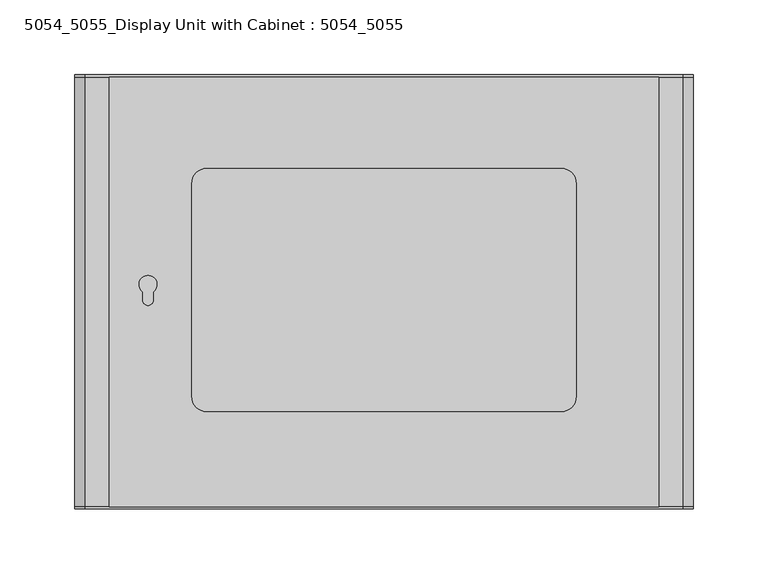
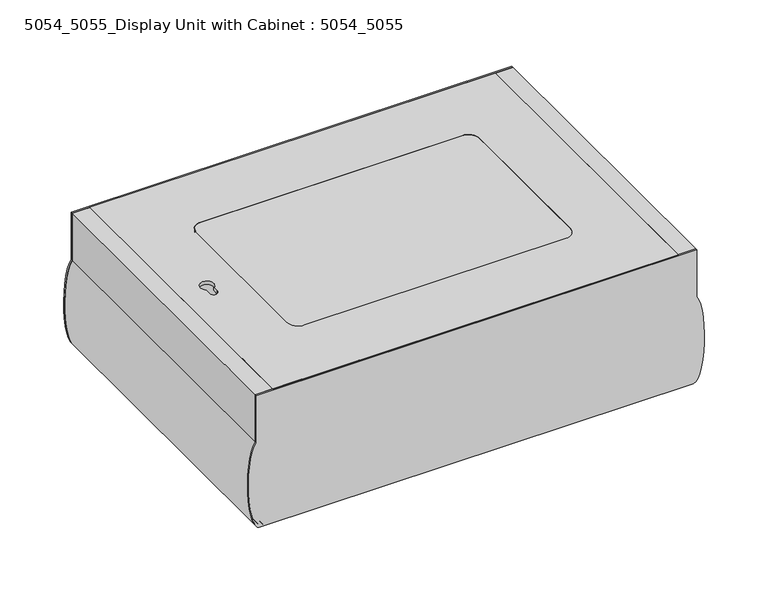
"""IFC4 building model written with IfcOpenShell, lengths in millimetres: alarm geometry, 5054_5055_Display Unit with Cabinet : 5054_5055."""

import ifcopenshell
import ifcopenshell.guid

model = None  # the IFC model being written
_history = None  # IfcOwnerHistory: only IFC2X3 demands one
_inside = {}  # id of a spatial element -> (the spatial element, [elements in it])
_under = {}  # id of a project, library or spatial element -> (it, [spatial elements below it])
_declared = {}  # id of a project -> (the project, [libraries it declares])
_typed = {}  # id of a type object -> (the type object, [elements of that type])
_made_of = {}  # id of a material, layer set ... -> (it, [elements and type objects made of it])


def new_model(schema):
    """Start an empty IFC model of exactly this schema.

    Asked for "IFC4X3", IfcOpenShell would pick the latest addendum, in which some entities
    have other attributes; the version numbers below select the first issue.
    IFC2X3 requires an IfcOwnerHistory on every rooted entity: one is made here for all.
    """
    global model, _history
    if schema == "IFC4X3":
        model = ifcopenshell.file(schema_version=(4, 3, 0, 0))
    else:
        model = ifcopenshell.file(schema=schema)
    _inside.clear()
    _under.clear()
    _declared.clear()
    _typed.clear()
    _made_of.clear()
    _history = None
    if model.schema == "IFC2X3":
        org = make("IfcOrganization", Name="unknown")
        user = make(
            "IfcPersonAndOrganization",
            ThePerson=make("IfcPerson", FamilyName="unknown"),
            TheOrganization=org,
        )
        app = make(
            "IfcApplication",
            ApplicationDeveloper=org,
            Version="unknown",
            ApplicationFullName="unknown",
            ApplicationIdentifier="unknown",
        )
        _history = make(
            "IfcOwnerHistory",
            OwningUser=user,
            OwningApplication=app,
            ChangeAction="ADDED",
            CreationDate=0,
        )
    return model


def make(cls, **values):
    """One entity of the class cls with the attributes given. An attribute that is None is left unset."""
    return model.create_entity(
        cls, **{name: value for name, value in values.items() if value is not None}
    )


def rooted(cls, **values):
    """An entity with a GlobalId (a new one), such as an element, a storey or a relation."""
    return make(cls, GlobalId=ifcopenshell.guid.new(), OwnerHistory=_history, **values)


def si_unit(unit_type, name, prefix=None):
    """IfcSIUnit, for example si_unit("LENGTHUNIT", "METRE", prefix="MILLI")."""
    return make("IfcSIUnit", UnitType=unit_type, Prefix=prefix, Name=name)


def assignment(units):
    """IfcUnitAssignment: the units of a project."""
    return None if units is None else make("IfcUnitAssignment", Units=units)


def point(xyz):
    """IfcCartesianPoint."""
    return None if xyz is None else make("IfcCartesianPoint", Coordinates=xyz)


def direction(xyz):
    """IfcDirection."""
    return None if xyz is None else make("IfcDirection", DirectionRatios=xyz)


def frame(location, z_axis=None, x_axis=None):
    """IfcAxis2Placement3D, a coordinate frame: its origin and axes. An axis left out is left unset."""
    return make(
        "IfcAxis2Placement3D",
        Location=point(location),
        Axis=direction(z_axis),
        RefDirection=direction(x_axis),
    )


def frame_2d(location, x_axis=None):
    """IfcAxis2Placement2D, a coordinate frame in the plane: its origin and x axis."""
    return make(
        "IfcAxis2Placement2D", Location=point(location), RefDirection=direction(x_axis)
    )


def origin():
    """The frame at (0, 0, 0) with its axes left unset."""
    return frame((0.0, 0.0, 0.0))


def origin_with_axes():
    """The frame at (0, 0, 0) with the z axis (0, 0, 1) and the x axis (1, 0, 0) written out."""
    return frame((0.0, 0.0, 0.0), z_axis=(0.0, 0.0, 1.0), x_axis=(1.0, 0.0, 0.0))


def place(relative_to, where):
    """IfcLocalPlacement: puts the frame where relative to a parent placement (None: the world)."""
    return make(
        "IfcLocalPlacement", PlacementRelTo=relative_to, RelativePlacement=where
    )


def context(
    kind, dimensions, precision=None, world=None, true_north=None, identifier=None
):
    """IfcGeometricRepresentationContext, for example the 3D "Model" context."""
    return make(
        "IfcGeometricRepresentationContext",
        ContextIdentifier=identifier,
        ContextType=kind,
        CoordinateSpaceDimension=dimensions,
        Precision=precision,
        WorldCoordinateSystem=world,
        TrueNorth=true_north,
    )


def project(units=None, contexts=None):
    """IfcProject with its units and contexts."""
    return rooted(
        "IfcProject",
        Name="project",
        RepresentationContexts=contexts,
        UnitsInContext=assignment(units),
    )


def spatial(cls, under=None, at=None, **own):
    """A site, building, storey or space (cls), placed at a placement, below another one or the project."""
    s = rooted(cls, ObjectPlacement=at, **own)
    if under is not None:
        _under.setdefault(under.id(), (under, []))[1].append(s)
    return s


def polyline(points):
    """IfcPolyline through the points."""
    return make("IfcPolyline", Points=[point(p) for p in points])


def circle_curve(where, radius):
    """IfcCircle in the frame where."""
    return make("IfcCircle", Position=where, Radius=radius)


def ellipse_curve(where, semi_axis1, semi_axis2):
    """IfcEllipse in the frame where."""
    return make(
        "IfcEllipse", Position=where, SemiAxis1=semi_axis1, SemiAxis2=semi_axis2
    )


def trimmed(basis, trim1, trim2, sense, master):
    """IfcTrimmedCurve: the piece of a basis curve between two trims."""
    return make(
        "IfcTrimmedCurve",
        BasisCurve=basis,
        Trim1=trim1,
        Trim2=trim2,
        SenseAgreement=sense,
        MasterRepresentation=master,
    )


def segment(curve, same_sense, transition):
    """IfcCompositeCurveSegment."""
    return make(
        "IfcCompositeCurveSegment",
        Transition=transition,
        SameSense=same_sense,
        ParentCurve=curve,
    )


def composite_curve(segments, self_intersect=None):
    """IfcCompositeCurve: segments joined end to end."""
    return make("IfcCompositeCurve", Segments=segments, SelfIntersect=self_intersect)


def outline(outer, holes=None, kind="AREA"):
    """IfcArbitraryClosedProfileDef: a profile drawn as a closed curve; with holes, ...WithVoids."""
    if holes is None:
        return make("IfcArbitraryClosedProfileDef", ProfileType=kind, OuterCurve=outer)
    return make(
        "IfcArbitraryProfileDefWithVoids",
        ProfileType=kind,
        OuterCurve=outer,
        InnerCurves=holes,
    )


def extrude(swept, where, along, depth):
    """IfcExtrudedAreaSolid: the profile swept, set in the frame where, extruded along a direction by depth."""
    return make(
        "IfcExtrudedAreaSolid",
        SweptArea=swept,
        Position=where,
        ExtrudedDirection=direction(along),
        Depth=depth,
    )


def shape(context_of_items, identifier, shape_type, items):
    """IfcShapeRepresentation: the items that make up one representation, for example the "Body"."""
    return make(
        "IfcShapeRepresentation",
        ContextOfItems=context_of_items,
        RepresentationIdentifier=identifier,
        RepresentationType=shape_type,
        Items=items,
    )


def source(mapping_origin, context_of_items, identifier, shape_type, items):
    """IfcRepresentationMap: a shape defined once, which mapped items show again and again."""
    return make(
        "IfcRepresentationMap",
        MappingOrigin=mapping_origin,
        MappedRepresentation=shape(context_of_items, identifier, shape_type, items),
    )


def transform(
    local_origin,
    x_axis=None,
    y_axis=None,
    z_axis=None,
    scale=None,
    scale2=None,
    scale3=None,
    uniform=True,
):
    """IfcCartesianTransformationOperator3D, or its non-uniform kind. x_axis, y_axis, z_axis: its Axis1, 2, 3."""
    if uniform:
        return make(
            "IfcCartesianTransformationOperator3D",
            Axis1=direction(x_axis),
            Axis2=direction(y_axis),
            LocalOrigin=point(local_origin),
            Scale=scale,
            Axis3=direction(z_axis),
        )
    return make(
        "IfcCartesianTransformationOperator3DnonUniform",
        Axis1=direction(x_axis),
        Axis2=direction(y_axis),
        LocalOrigin=point(local_origin),
        Scale=scale,
        Axis3=direction(z_axis),
        Scale2=scale2,
        Scale3=scale3,
    )


def mapped(mapping_source, mapping_target):
    """IfcMappedItem: shows the shape of a source again, moved by a transform."""
    return make(
        "IfcMappedItem", MappingSource=mapping_source, MappingTarget=mapping_target
    )


def made_of(thing, what):
    """Note that an element or type object is made of a material, layer set ...; save() writes the relation."""
    if what is not None:
        _made_of.setdefault(what.id(), (what, []))[1].append(thing)
    return thing


def element(
    cls,
    number,
    at=None,
    inside=None,
    cuts=None,
    type_object=None,
    material=None,
    context=None,
    identifier="Body",
    shape_type=None,
    held_by="IfcProductDefinitionShape",
    body=None,
    shapes=None,
    **own,
):
    """One element of the class cls, such as IfcWall. Its Tag is "e" and its number.

    at: its placement. inside: the storey or other place that contains it. cuts: it is an
    opening in that element (IfcRelVoidsElement). A single representation is given by context,
    identifier, shape_type and body (its items); several are given by shapes. held_by: the class
    of the entity that holds the representations. save() writes the other relations.
    """
    e = rooted(cls, Tag="e%d" % number, ObjectPlacement=at, **own)
    if body is not None:
        shapes = [shape(context, identifier, shape_type, body)]
    if shapes is not None:
        e.Representation = make(held_by, Representations=shapes)
    if inside is not None:
        _inside.setdefault(inside.id(), (inside, []))[1].append(e)
    if cuts is not None:
        rooted(
            "IfcRelVoidsElement", RelatingBuildingElement=cuts, RelatedOpeningElement=e
        )
    if type_object is not None:
        _typed.setdefault(type_object.id(), (type_object, []))[1].append(e)
    return made_of(e, material)


def aggregate(whole, parts):
    """IfcRelAggregates: a whole, such as a stair, and the parts it consists of."""
    return rooted("IfcRelAggregates", RelatingObject=whole, RelatedObjects=parts)


def save(model, path):
    """Write the relations noted so far, then the file.

    IfcRelAggregates (storeys below a building ...), IfcRelContainedInSpatialStructure (elements
    in a storey), IfcRelDefinesByType, IfcRelAssociatesMaterial and IfcRelDeclares: one each for
    every whole, place, type object, material and project.
    """
    for whole, parts in _under.values():
        aggregate(whole, parts)
    for where, things in _inside.values():
        rooted(
            "IfcRelContainedInSpatialStructure",
            RelatedElements=things,
            RelatingStructure=where,
        )
    for kind, things in _typed.values():
        rooted("IfcRelDefinesByType", RelatedObjects=things, RelatingType=kind)
    for what, things in _made_of.values():
        rooted("IfcRelAssociatesMaterial", RelatedObjects=things, RelatingMaterial=what)
    for by, libraries in _declared.values():
        rooted("IfcRelDeclares", RelatingContext=by, RelatedDefinitions=libraries)
    model.write(path)


def plane_surface(at):
    """IfcPlane: the flat surface through the origin of the frame at, square to its z axis."""
    return make("IfcPlane", Position=at)


def extruded_surface(curve, direction_of_extrusion, depth):
    """IfcSurfaceOfLinearExtrusion: the curve pushed along a direction by depth."""
    return make(
        "IfcSurfaceOfLinearExtrusion",
        SweptCurve=make("IfcArbitraryOpenProfileDef", ProfileType="CURVE", Curve=curve),
        ExtrudedDirection=direction(direction_of_extrusion),
        Depth=depth,
    )


def advanced_brep(points, edges, surfaces, faces):
    """IfcAdvancedBrep: a solid bounded by faces that lie on surfaces and meet in shared edges.

    An edge is (start, end): straight between two places in points (the first is 0);
    or (start, end, curve); or (start, end, curve, False) where it runs against its curve.
    A face is (place in surfaces, loops), or (place, loops, False) where it looks against
    its surface's normal. A loop lists edges by number (the first is 1), with a minus sign
    where the edge is run from its end to its start. The first loop is the outer one.
    """
    corners = [point(p) for p in points]
    vertices = [make("IfcVertexPoint", VertexGeometry=c) for c in corners]
    made = []
    for start, end, *more in edges:
        made.append(
            make(
                "IfcEdgeCurve",
                EdgeStart=vertices[start],
                EdgeEnd=vertices[end],
                EdgeGeometry=more[0] if more else make("IfcPolyline", Points=[corners[start], corners[end]]),
                SameSense=more[1] if len(more) > 1 else True,
            )
        )
    hull = []
    for where, loops, *sense in faces:
        bounds = []
        for j, loop in enumerate(loops):
            ring = [make("IfcOrientedEdge", EdgeElement=made[abs(k) - 1], Orientation=k > 0) for k in loop]
            bounds.append(
                make(
                    "IfcFaceOuterBound" if j == 0 else "IfcFaceBound",
                    Bound=make("IfcEdgeLoop", EdgeList=ring),
                    Orientation=True,
                )
            )
        hull.append(make("IfcAdvancedFace", Bounds=bounds, FaceSurface=surfaces[where], SameSense=sense[0] if sense else True))
    return make("IfcAdvancedBrep", Outer=make("IfcClosedShell", CfsFaces=hull))


def alarm_5054_5055_display_unit_with_cabinet_5054_5055_d95cda29(model_context):
    return source(origin(), model_context, "Body", "SolidModel", [
        extrude(outline(polyline([(183.5, 143.5), (183.5, -143.5), (-183.5, -143.5), (-183.5, 143.5), (183.5, 143.5)]), holes=[composite_curve([segment(trimmed(circle_curve(frame_2d((-118.3178914, -70.0)), 10.0), [point((-128.3178914, -70.0))], [point((-118.3178914, -80.0))], True, "CARTESIAN"), True, "CONTINUOUS"), segment(polyline([(-118.3178914, -80.0), (118.3178914, -80.0)]), True, "CONTINUOUS"), segment(trimmed(circle_curve(frame_2d((118.3178914, -70.0)), 10.0), [point((118.3178914, -80.0))], [point((128.3178914, -70.0))], True, "CARTESIAN"), True, "CONTINUOUS"), segment(polyline([(128.3178914, -70.0), (128.3178914, 72.5)]), True, "CONTINUOUS"), segment(trimmed(circle_curve(frame_2d((118.3178914, 72.5)), 10.0), [point((128.3178914, 72.5))], [point((118.3178914, 82.5))], True, "CARTESIAN"), True, "CONTINUOUS"), segment(polyline([(118.3178914, 82.5), (-118.3178914, 82.5)]), True, "CONTINUOUS"), segment(trimmed(circle_curve(frame_2d((-118.3178914, 72.5)), 10.0), [point((-118.3178914, 82.5))], [point((-128.3178914, 72.5))], True, "CARTESIAN"), True, "CONTINUOUS"), segment(polyline([(-128.3178914, 72.5), (-128.3178914, -70.0)]), True, "CONTINUOUS")], self_intersect=False), composite_curve([segment(trimmed(circle_curve(frame_2d((-157.5557835, -5.5751491)), 3.4628804), [point((-161.0186639, -5.5751491))], [point((-154.0929031, -5.5751491))], True, "CARTESIAN"), True, "CONTINUOUS"), segment(polyline([(-154.0929031, -5.5751491), (-154.0929031, 0.0)]), True, "CONTINUOUS"), segment(trimmed(circle_curve(frame_2d((-157.5557835, 4.8998428)), 6.0), [point((-154.0929031, 0.0))], [point((-161.0186639, 0.0))], True, "CARTESIAN"), True, "CONTINUOUS"), segment(polyline([(-161.0186639, 0.0), (-161.0186639, -5.5751491)]), True, "CONTINUOUS")], self_intersect=False)]), frame((0.0, 0.0, 124.0), z_axis=(0.0, 0.0, 1.0), x_axis=(1.0, 0.0, 0.0)), (0.0, 0.0, 1.0), 3.0),
        extrude(outline(composite_curve([segment(trimmed(circle_curve(frame_2d((-118.3178914, 72.5)), 10.0), [point((-128.3178914, 72.5))], [point((-118.3178914, 82.5))], False, "CARTESIAN"), True, "CONTINUOUS"), segment(polyline([(-118.3178914, 82.5), (118.3178914, 82.5)]), True, "CONTINUOUS"), segment(trimmed(circle_curve(frame_2d((118.3178914, 72.5)), 10.0), [point((118.3178914, 82.5))], [point((128.3178914, 72.5))], False, "CARTESIAN"), True, "CONTINUOUS"), segment(polyline([(128.3178914, 72.5), (128.3178914, -70.0)]), True, "CONTINUOUS"), segment(trimmed(circle_curve(frame_2d((118.3178914, -70.0)), 10.0), [point((128.3178914, -70.0))], [point((118.3178914, -80.0))], False, "CARTESIAN"), True, "CONTINUOUS"), segment(polyline([(118.3178914, -80.0), (-118.3178914, -80.0)]), True, "CONTINUOUS"), segment(trimmed(circle_curve(frame_2d((-118.3178914, -70.0)), 10.0), [point((-118.3178914, -80.0))], [point((-128.3178914, -70.0))], False, "CARTESIAN"), True, "CONTINUOUS"), segment(polyline([(-128.3178914, -70.0), (-128.3178914, 72.5)]), True, "CONTINUOUS")], self_intersect=False)), frame((0.0, 0.0, 124.0), z_axis=(0.0, 0.0, 1.0), x_axis=(1.0, 0.0, 0.0)), (0.0, 0.0, 1.0), 3.0),
        advanced_brep(
        [(-199.5, 143.5, 127.0), (-199.5, 143.5, 82.0617947), (-196.5741049, 143.5, 0.0), (196.5741049, 143.5, 0.0), (199.5, 143.5, 82.0617947), (199.5, 143.5, 127.0), (-199.5, 145.0, 127.0), (199.5, 145.0, 127.0), (199.5, 145.0, 82.0617947), (196.5741049, 145.0, 0.0), (-196.5741049, 145.0, 0.0), (-199.5, 145.0, 82.0617947)],
        [
            (0, 1),
            (1, 2, ellipse_curve(frame((-196.5741049, 143.5, 41.9929453), z_axis=(0.0, -1.0, 0.0), x_axis=(0.0, 0.0, 1.0)), 41.9929453, 9.7780266)),
            (2, 3),
            (3, 4, ellipse_curve(frame((196.5741049, 143.5, 41.9929453), z_axis=(0.0, -1.0, 0.0), x_axis=(0.0, 0.0, 1.0)), 41.9929453, 9.7780266)),
            (4, 5),
            (5, 0),
            (6, 7),
            (7, 8),
            (8, 9, ellipse_curve(frame((196.5741049, 145.0, 41.9929453), z_axis=(0.0, 1.0, 0.0), x_axis=(0.0, 0.0, 1.0)), 41.9929453, 9.7780266)),
            (9, 10),
            (10, 11, ellipse_curve(frame((-196.5741049, 145.0, 41.9929453), z_axis=(0.0, 1.0, 0.0), x_axis=(0.0, 0.0, 1.0)), 41.9929453, 9.7780266)),
            (11, 6),
            (11, 1),
            (0, 6),
            (9, 3),
            (2, 10),
            (8, 4),
            (7, 5),
        ],
        [
            plane_surface(frame((-199.5, 143.5, 127.0), z_axis=(0.0, -1.0, 0.0), x_axis=(-1.0, 0.0, 0.0))),
            plane_surface(frame((-199.5, 145.0, 127.0), z_axis=(0.0, 1.0, 0.0), x_axis=(1.0, 0.0, 0.0))),
            plane_surface(frame((-199.5, 145.0, 82.0617947), z_axis=(-1.0, 0.0, 0.0), x_axis=(0.0, -1.0, 0.0))),
            plane_surface(frame((196.5741049, 145.0, 0.0), z_axis=(0.0, 0.0, -1.0), x_axis=(0.0, -1.0, 0.0))),
            extruded_surface(trimmed(ellipse_curve(frame((196.5741049, 142.0, 41.9929453), z_axis=(0.0, 1.0, 0.0), x_axis=(0.0, 0.0, 1.0)), 41.9929453, 9.7780266), [point((199.5, 142.0, 82.0617947))], [point((196.5741049, 142.0, 0.0))], True, "CARTESIAN"), (0.0, 1.5, 0.0), 1.5),
            plane_surface(frame((199.5, 145.0, 127.0), z_axis=(1.0, 0.0, 0.0), x_axis=(0.0, -1.0, 0.0))),
            plane_surface(frame((-199.5, 145.0, 127.0), z_axis=(0.0, 0.0, 1.0), x_axis=(0.0, -1.0, 0.0))),
            extruded_surface(trimmed(ellipse_curve(frame((-196.5741049, 142.0, 41.9929453), z_axis=(0.0, 1.0, 0.0), x_axis=(0.0, 0.0, 1.0)), 41.9929453, 9.7780266), [point((-196.5741049, 142.0, 0.0))], [point((-199.5, 142.0, 82.0617947))], True, "CARTESIAN"), (0.0, 1.5, 0.0), 1.5),
        ],
        [
            (0, [[1, 2, 3, 4, 5, 6]]),
            (1, [[7, 8, 9, 10, 11, 12]]),
            (2, [[-12, 13, -1, 14]]),
            (3, [[-10, 15, -3, 16]]),
            (4, [[-9, 17, -4, -15]]),
            (5, [[-8, 18, -5, -17]]),
            (6, [[-7, -14, -6, -18]]),
            (7, [[-11, -16, -2, -13]]),
        ],
    ),
        advanced_brep(
        [(-199.5, -143.5, 127.0), (199.5, -143.5, 127.0), (199.5, -143.5, 82.0617947), (196.5741049, -143.5, 0.0), (-196.5741049, -143.5, 0.0), (-199.5, -143.5, 82.0617947), (-199.5, -145.0, 127.0), (-199.5, -145.0, 82.0617947), (-196.5741049, -145.0, 0.0), (196.5741049, -145.0, 0.0), (199.5, -145.0, 82.0617947), (199.5, -145.0, 127.0)],
        [
            (0, 1),
            (1, 2),
            (2, 3, ellipse_curve(frame((196.5741049, -143.5, 41.9929453), z_axis=(0.0, 1.0, 0.0), x_axis=(0.0, 0.0, 1.0)), 41.9929453, 9.7780266)),
            (3, 4),
            (4, 5, ellipse_curve(frame((-196.5741049, -143.5, 41.9929453), z_axis=(0.0, 1.0, 0.0), x_axis=(0.0, 0.0, 1.0)), 41.9929453, 9.7780266)),
            (5, 0),
            (6, 7),
            (7, 8, ellipse_curve(frame((-196.5741049, -145.0, 41.9929453), z_axis=(0.0, -1.0, 0.0), x_axis=(0.0, 0.0, 1.0)), 41.9929453, 9.7780266)),
            (8, 9),
            (9, 10, ellipse_curve(frame((196.5741049, -145.0, 41.9929453), z_axis=(0.0, -1.0, 0.0), x_axis=(0.0, 0.0, 1.0)), 41.9929453, 9.7780266)),
            (10, 11),
            (11, 6),
            (6, 0),
            (5, 7),
            (8, 4),
            (3, 9),
            (2, 10),
            (1, 11),
        ],
        [
            plane_surface(frame((-199.5, -143.5, 82.0617947), z_axis=(0.0, 1.0, 0.0), x_axis=(0.0, 0.0, 1.0))),
            plane_surface(frame((-199.5, -145.0, 82.0617947), z_axis=(0.0, -1.0, 0.0), x_axis=(0.0, 0.0, -1.0))),
            plane_surface(frame((-199.5, -145.0, 127.0), z_axis=(-1.0, 0.0, 0.0), x_axis=(0.0, 1.0, 0.0))),
            plane_surface(frame((-196.5741049, -145.0, 0.0), z_axis=(0.0, 0.0, -1.0), x_axis=(0.0, 1.0, 0.0))),
            extruded_surface(trimmed(ellipse_curve(frame((196.5741049, -142.0, 41.9929453), z_axis=(0.0, -1.0, 0.0), x_axis=(0.0, 0.0, 1.0)), 41.9929453, 9.7780266), [point((196.5741049, -142.0, 0.0))], [point((199.5, -142.0, 82.0617947))], True, "CARTESIAN"), (0.0, -1.5, 0.0), 1.5),
            plane_surface(frame((199.5, -145.0, 82.0617947), z_axis=(1.0, 0.0, 0.0), x_axis=(0.0, 1.0, 0.0))),
            plane_surface(frame((199.5, -145.0, 127.0), z_axis=(0.0, 0.0, 1.0), x_axis=(0.0, 1.0, 0.0))),
            extruded_surface(trimmed(ellipse_curve(frame((-196.5741049, -142.0, 41.9929453), z_axis=(0.0, -1.0, 0.0), x_axis=(0.0, 0.0, 1.0)), 41.9929453, 9.7780266), [point((-199.5, -142.0, 82.0617947))], [point((-196.5741049, -142.0, 0.0))], True, "CARTESIAN"), (0.0, -1.5, 0.0), 1.5),
        ],
        [
            (0, [[1, 2, 3, 4, 5, 6]]),
            (1, [[7, 8, 9, 10, 11, 12]]),
            (2, [[-7, 13, -6, 14]]),
            (3, [[-9, 15, -4, 16]]),
            (4, [[-10, -16, -3, 17]]),
            (5, [[-11, -17, -2, 18]]),
            (6, [[-12, -18, -1, -13]]),
            (7, [[-8, -14, -5, -15]]),
        ],
    ),
        advanced_brep(
        [(196.5, -143.5, 82.0617947), (193.5741049, -143.5, 0.0), (196.5741049, -143.5, 0.0), (199.5, -143.5, 82.0617947), (199.5, -143.5, 127.0), (183.5, -143.5, 127.0), (183.5, -143.5, 124.0), (196.5, -143.5, 124.0), (196.5, 143.5, 82.0617947), (196.5, 143.5, 124.0), (183.5, 143.5, 124.0), (183.5, 143.5, 127.0), (199.5, 143.5, 127.0), (199.5, 143.5, 82.0617947), (196.5741049, 143.5, 0.0), (193.5741049, 143.5, 0.0)],
        [
            (0, 1, ellipse_curve(frame((193.5741049, -143.5, 41.9929453), z_axis=(0.0, 1.0, 0.0), x_axis=(0.0, 0.0, 1.0)), 41.9929453, 9.7780266)),
            (1, 2),
            (2, 3, ellipse_curve(frame((196.5741049, -143.5, 41.9929453), z_axis=(0.0, -1.0, 0.0), x_axis=(0.0, 0.0, 1.0)), 41.9929453, 9.7780266)),
            (3, 4),
            (4, 5),
            (5, 6),
            (6, 7),
            (7, 0),
            (8, 9),
            (9, 10),
            (10, 11),
            (11, 12),
            (12, 13),
            (13, 14, ellipse_curve(frame((196.5741049, 143.5, 41.9929453), z_axis=(0.0, 1.0, 0.0), x_axis=(0.0, 0.0, 1.0)), 41.9929453, 9.7780266)),
            (14, 15),
            (15, 8, ellipse_curve(frame((193.5741049, 143.5, 41.9929453), z_axis=(0.0, -1.0, 0.0), x_axis=(0.0, 0.0, 1.0)), 41.9929453, 9.7780266)),
            (7, 9),
            (8, 0),
            (6, 10),
            (5, 11),
            (4, 12),
            (3, 13),
            (2, 14),
            (1, 15),
        ],
        [
            plane_surface(frame((193.5741049, -143.5, 83.9858906), z_axis=(0.0, -1.0, 0.0), x_axis=(1.0, 0.0, 0.0))),
            plane_surface(frame((193.5741049, 143.5, 83.9858906), z_axis=(0.0, 1.0, 0.0), x_axis=(-1.0, 0.0, 0.0))),
            plane_surface(frame((196.5, -143.5, 124.0), z_axis=(-1.0, 0.0, 0.0), x_axis=(0.0, 1.0, 0.0))),
            plane_surface(frame((183.5, -143.5, 124.0), z_axis=(0.0, 0.0, -1.0), x_axis=(0.0, 1.0, 0.0))),
            plane_surface(frame((183.5, -143.5, 127.0), z_axis=(-1.0, 0.0, 0.0), x_axis=(0.0, 1.0, 0.0))),
            plane_surface(frame((199.5, -143.5, 127.0), z_axis=(0.0, 0.0, 1.0), x_axis=(0.0, 1.0, 0.0))),
            plane_surface(frame((199.5, -143.5, 82.0617947), z_axis=(1.0, 0.0, 0.0), x_axis=(0.0, 1.0, 0.0))),
            extruded_surface(trimmed(ellipse_curve(frame((196.5741049, 430.5, 41.9929453), z_axis=(0.0, -1.0, 0.0), x_axis=(0.0, 0.0, 1.0)), 41.9929453, 9.7780266), [point((196.5741049, 430.5, 0.0))], [point((199.5, 430.5, 82.0617947))], True, "CARTESIAN"), (0.0, -287.0, 0.0), 287.0),
            plane_surface(frame((193.5741049, -143.5, 0.0), z_axis=(0.0, 0.0, -1.0), x_axis=(0.0, 1.0, 0.0))),
            extruded_surface(trimmed(ellipse_curve(frame((193.5741049, 430.5, 41.9929453), z_axis=(0.0, 1.0, 0.0), x_axis=(0.0, 0.0, 1.0)), 41.9929453, 9.7780266), [point((196.5, 430.5, 82.0617947))], [point((193.5741049, 430.5, 0.0))], True, "CARTESIAN"), (0.0, -287.0, 0.0), 287.0),
        ],
        [
            (0, [[1, 2, 3, 4, 5, 6, 7, 8]]),
            (1, [[9, 10, 11, 12, 13, 14, 15, 16]]),
            (2, [[-8, 17, -9, 18]]),
            (3, [[-7, 19, -10, -17]]),
            (4, [[-6, 20, -11, -19]]),
            (5, [[-5, 21, -12, -20]]),
            (6, [[-4, 22, -13, -21]]),
            (7, [[-3, 23, -14, -22]]),
            (8, [[-2, 24, -15, -23]]),
            (9, [[-1, -18, -16, -24]]),
        ],
    ),
        advanced_brep(
        [(-196.5, -143.5, 82.0617947), (-196.5, -143.5, 124.0), (-183.5, -143.5, 124.0), (-183.5, -143.5, 127.0), (-199.5, -143.5, 127.0), (-199.5, -143.5, 82.0617947), (-196.5741049, -143.5, 0.0), (-193.5741049, -143.5, 0.0), (-196.5, 143.5, 82.0617947), (-193.5741049, 143.5, 0.0), (-196.5741049, 143.5, 0.0), (-199.5, 143.5, 82.0617947), (-199.5, 143.5, 127.0), (-183.5, 143.5, 127.0), (-183.5, 143.5, 124.0), (-196.5, 143.5, 124.0)],
        [
            (0, 1),
            (1, 2),
            (2, 3),
            (3, 4),
            (4, 5),
            (5, 6, ellipse_curve(frame((-196.5741049, -143.5, 41.9929453), z_axis=(0.0, -1.0, 0.0), x_axis=(0.0, 0.0, 1.0)), 41.9929453, 9.7780266)),
            (6, 7),
            (7, 0, ellipse_curve(frame((-193.5741049, -143.5, 41.9929453), z_axis=(0.0, 1.0, 0.0), x_axis=(0.0, 0.0, 1.0)), 41.9929453, 9.7780266)),
            (8, 9, ellipse_curve(frame((-193.5741049, 143.5, 41.9929453), z_axis=(0.0, -1.0, 0.0), x_axis=(0.0, 0.0, 1.0)), 41.9929453, 9.7780266)),
            (9, 10),
            (10, 11, ellipse_curve(frame((-196.5741049, 143.5, 41.9929453), z_axis=(0.0, 1.0, 0.0), x_axis=(0.0, 0.0, 1.0)), 41.9929453, 9.7780266)),
            (11, 12),
            (12, 13),
            (13, 14),
            (14, 15),
            (15, 8),
            (0, 8),
            (15, 1),
            (14, 2),
            (13, 3),
            (12, 4),
            (11, 5),
            (10, 6),
            (9, 7),
        ],
        [
            plane_surface(frame((-196.5, -143.5, 124.0), z_axis=(0.0, -1.0, 0.0), x_axis=(0.0, 0.0, 1.0))),
            plane_surface(frame((-196.5, 143.5, 124.0), z_axis=(0.0, 1.0, 0.0), x_axis=(0.0, 0.0, -1.0))),
            plane_surface(frame((-196.5, -143.5, 82.0617947), z_axis=(1.0, 0.0, 0.0), x_axis=(0.0, 1.0, 0.0))),
            plane_surface(frame((-196.5, -143.5, 124.0), z_axis=(0.0, 0.0, -1.0), x_axis=(0.0, 1.0, 0.0))),
            plane_surface(frame((-183.5, -143.5, 124.0), z_axis=(1.0, 0.0, 0.0), x_axis=(0.0, 1.0, 0.0))),
            plane_surface(frame((-183.5, -143.5, 127.0), z_axis=(0.0, 0.0, 1.0), x_axis=(0.0, 1.0, 0.0))),
            plane_surface(frame((-199.5, -143.5, 127.0), z_axis=(-1.0, 0.0, 0.0), x_axis=(0.0, 1.0, 0.0))),
            extruded_surface(trimmed(ellipse_curve(frame((-196.5741049, 430.5, 41.9929453), z_axis=(0.0, -1.0, 0.0), x_axis=(0.0, 0.0, 1.0)), 41.9929453, 9.7780266), [point((-199.5, 430.5, 82.0617947))], [point((-196.5741049, 430.5, 0.0))], True, "CARTESIAN"), (0.0, -287.0, 0.0), 287.0),
            plane_surface(frame((-196.5741049, -143.5, 0.0), z_axis=(0.0, 0.0, -1.0), x_axis=(0.0, 1.0, 0.0))),
            extruded_surface(trimmed(ellipse_curve(frame((-193.5741049, 430.5, 41.9929453), z_axis=(0.0, 1.0, 0.0), x_axis=(0.0, 0.0, 1.0)), 41.9929453, 9.7780266), [point((-193.5741049, 430.5, 0.0))], [point((-196.5, 430.5, 82.0617947))], True, "CARTESIAN"), (0.0, -287.0, 0.0), 287.0),
        ],
        [
            (0, [[1, 2, 3, 4, 5, 6, 7, 8]]),
            (1, [[9, 10, 11, 12, 13, 14, 15, 16]]),
            (2, [[-1, 17, -16, 18]]),
            (3, [[-2, -18, -15, 19]]),
            (4, [[-3, -19, -14, 20]]),
            (5, [[-4, -20, -13, 21]]),
            (6, [[-5, -21, -12, 22]]),
            (7, [[-6, -22, -11, 23]]),
            (8, [[-7, -23, -10, 24]]),
            (9, [[-8, -24, -9, -17]]),
        ],
    ),
        extrude(outline(polyline([(193.5, 143.5), (193.5, -143.5), (-193.5, -143.5), (-193.5, 143.5), (193.5, 143.5)])), origin_with_axes(), (0.0, 0.0, 1.0), 3.0),
        advanced_brep(
        [(-196.5, -143.5, 82.0643791), (-193.5, -143.5, 0.0), (-190.5, -143.5, 0.0), (-193.5, -143.5, 82.0643791), (-193.5, -143.5, 122.0), (-196.5, -143.5, 122.0), (-196.5, 143.5, 82.0643791), (-196.5, 143.5, 122.0), (-193.5, 143.5, 122.0), (-193.5, 143.5, 82.0643791), (-190.5, 143.5, 0.0), (-193.5, 143.5, 0.0)],
        [
            (0, 1, ellipse_curve(frame((-193.5, -143.5, 41.9994538), z_axis=(0.0, -1.0, 0.0), x_axis=(0.0, 0.0, 1.0)), 41.9994538, 10.0)),
            (1, 2),
            (2, 3, ellipse_curve(frame((-190.5, -143.5, 41.9994538), z_axis=(0.0, 1.0, 0.0), x_axis=(0.0, 0.0, 1.0)), 41.9994538, 10.0)),
            (3, 4),
            (4, 5),
            (5, 0),
            (6, 7),
            (7, 8),
            (8, 9),
            (9, 10, ellipse_curve(frame((-190.5, 143.5, 41.9994538), z_axis=(0.0, -1.0, 0.0), x_axis=(0.0, 0.0, 1.0)), 41.9994538, 10.0)),
            (10, 11),
            (11, 6, ellipse_curve(frame((-193.5, 143.5, 41.9994538), z_axis=(0.0, 1.0, 0.0), x_axis=(0.0, 0.0, 1.0)), 41.9994538, 10.0)),
            (3, 9),
            (8, 4),
            (7, 5),
            (6, 0),
            (11, 1),
            (10, 2),
        ],
        [
            plane_surface(frame((-206.5, -143.5, 0.0), z_axis=(0.0, -1.0, 0.0), x_axis=(0.0, 0.0, 1.0))),
            plane_surface(frame((-206.5, 143.5, 0.0), z_axis=(0.0, 1.0, 0.0), x_axis=(0.0, 0.0, 1.0))),
            plane_surface(frame((-193.5, -143.5, 82.0643791), z_axis=(1.0, 0.0, 0.0), x_axis=(0.0, 1.0, 0.0))),
            plane_surface(frame((-193.5, -143.5, 122.0), z_axis=(0.0, 0.0, 1.0), x_axis=(0.0, 1.0, 0.0))),
            plane_surface(frame((-196.5, -143.5, 122.0), z_axis=(-1.0, 0.0, 0.0), x_axis=(0.0, 1.0, 0.0))),
            extruded_surface(trimmed(ellipse_curve(frame((-193.5, 143.5, 41.9994538), z_axis=(0.0, -1.0, 0.0), x_axis=(0.0, 0.0, 1.0)), 41.9994538, 10.0), [point((-196.5, 143.5, 82.0643791))], [point((-193.5, 143.5, 0.0))], True, "CARTESIAN"), (0.0, -287.0, 0.0), 287.0),
            plane_surface(frame((-193.5, -143.5, 0.0), z_axis=(0.0, 0.0, -1.0), x_axis=(0.0, 1.0, 0.0))),
            extruded_surface(trimmed(ellipse_curve(frame((-190.5, 143.5, 41.9994538), z_axis=(0.0, 1.0, 0.0), x_axis=(0.0, 0.0, 1.0)), 41.9994538, 10.0), [point((-190.5, 143.5, 0.0))], [point((-193.5, 143.5, 82.0643791))], True, "CARTESIAN"), (0.0, -287.0, 0.0), 287.0),
        ],
        [
            (0, [[1, 2, 3, 4, 5, 6]]),
            (1, [[7, 8, 9, 10, 11, 12]]),
            (2, [[-4, 13, -9, 14]]),
            (3, [[-5, -14, -8, 15]]),
            (4, [[-6, -15, -7, 16]]),
            (5, [[-1, -16, -12, 17]]),
            (6, [[-2, -17, -11, 18]]),
            (7, [[-3, -18, -10, -13]]),
        ],
    ),
        advanced_brep(
        [(196.5, -143.5, 82.0643791), (196.5, -143.5, 122.0), (193.5, -143.5, 122.0), (193.5, -143.5, 82.0643791), (190.5, -143.5, 0.0), (193.5, -143.5, 0.0), (196.5, 143.5, 82.0643791), (193.5, 143.5, 0.0), (190.5, 143.5, 0.0), (193.5, 143.5, 82.0643791), (193.5, 143.5, 122.0), (196.5, 143.5, 122.0)],
        [
            (0, 1),
            (1, 2),
            (2, 3),
            (3, 4, ellipse_curve(frame((190.5, -143.5, 41.9994538), z_axis=(0.0, 1.0, 0.0), x_axis=(0.0, 0.0, 1.0)), 41.9994538, 10.0)),
            (4, 5),
            (5, 0, ellipse_curve(frame((193.5, -143.5, 41.9994538), z_axis=(0.0, -1.0, 0.0), x_axis=(0.0, 0.0, 1.0)), 41.9994538, 10.0)),
            (6, 7, ellipse_curve(frame((193.5, 143.5, 41.9994538), z_axis=(0.0, 1.0, 0.0), x_axis=(0.0, 0.0, 1.0)), 41.9994538, 10.0)),
            (7, 8),
            (8, 9, ellipse_curve(frame((190.5, 143.5, 41.9994538), z_axis=(0.0, -1.0, 0.0), x_axis=(0.0, 0.0, 1.0)), 41.9994538, 10.0)),
            (9, 10),
            (10, 11),
            (11, 6),
            (0, 6),
            (11, 1),
            (10, 2),
            (9, 3),
            (8, 4),
            (7, 5),
        ],
        [
            plane_surface(frame((206.5, -143.5, 0.0), z_axis=(0.0, -1.0, 0.0), x_axis=(0.0, 0.0, 1.0))),
            plane_surface(frame((206.5, 143.5, 0.0), z_axis=(0.0, 1.0, 0.0), x_axis=(0.0, 0.0, 1.0))),
            plane_surface(frame((196.5, -143.5, 82.0643791), z_axis=(1.0, 0.0, 0.0), x_axis=(0.0, 1.0, 0.0))),
            plane_surface(frame((196.5, -143.5, 122.0), z_axis=(0.0, 0.0, 1.0), x_axis=(0.0, 1.0, 0.0))),
            plane_surface(frame((193.5, -143.5, 122.0), z_axis=(-1.0, 0.0, 0.0), x_axis=(0.0, 1.0, 0.0))),
            extruded_surface(trimmed(ellipse_curve(frame((190.5, 143.5, 41.9994538), z_axis=(0.0, 1.0, 0.0), x_axis=(0.0, 0.0, 1.0)), 41.9994538, 10.0), [point((193.5, 143.5, 82.0643791))], [point((190.5, 143.5, 0.0))], True, "CARTESIAN"), (0.0, -287.0, 0.0), 287.0),
            plane_surface(frame((190.5, -143.5, 0.0), z_axis=(0.0, 0.0, -1.0), x_axis=(0.0, 1.0, 0.0))),
            extruded_surface(trimmed(ellipse_curve(frame((193.5, 143.5, 41.9994538), z_axis=(0.0, -1.0, 0.0), x_axis=(0.0, 0.0, 1.0)), 41.9994538, 10.0), [point((193.5, 143.5, 0.0))], [point((196.5, 143.5, 82.0643791))], True, "CARTESIAN"), (0.0, -287.0, 0.0), 287.0),
        ],
        [
            (0, [[1, 2, 3, 4, 5, 6]]),
            (1, [[7, 8, 9, 10, 11, 12]]),
            (2, [[-1, 13, -12, 14]]),
            (3, [[-2, -14, -11, 15]]),
            (4, [[-3, -15, -10, 16]]),
            (5, [[-4, -16, -9, 17]]),
            (6, [[-5, -17, -8, 18]]),
            (7, [[-6, -18, -7, -13]]),
        ],
    ),
        advanced_brep(
        [(196.5, 143.5, 122.0), (196.5, 143.5, 82.0643791), (193.5, 143.5, 0.0), (-193.5, 143.5, 0.0), (-196.5, 143.5, 82.0643791), (-196.5, 143.5, 122.0), (196.5, 142.0, 122.0), (-196.5, 142.0, 122.0), (-196.5, 142.0, 82.0643791), (-193.5, 142.0, 0.0), (193.5, 142.0, 0.0), (196.5, 142.0, 82.0643791)],
        [
            (0, 1),
            (1, 2, ellipse_curve(frame((193.5, 143.5, 41.9994538), z_axis=(0.0, 1.0, 0.0), x_axis=(0.0, 0.0, 1.0)), 41.9994538, 10.0)),
            (2, 3),
            (3, 4, ellipse_curve(frame((-193.5, 143.5, 41.9994538), z_axis=(0.0, 1.0, 0.0), x_axis=(0.0, 0.0, 1.0)), 41.9994538, 10.0)),
            (4, 5),
            (5, 0),
            (6, 7),
            (7, 8),
            (8, 9, ellipse_curve(frame((-193.5, 142.0, 41.9994538), z_axis=(0.0, -1.0, 0.0), x_axis=(0.0, 0.0, 1.0)), 41.9994538, 10.0)),
            (9, 10),
            (10, 11, ellipse_curve(frame((193.5, 142.0, 41.9994538), z_axis=(0.0, -1.0, 0.0), x_axis=(0.0, 0.0, 1.0)), 41.9994538, 10.0)),
            (11, 6),
            (0, 6),
            (11, 1),
            (10, 2),
            (9, 3),
            (4, 8),
            (7, 5),
        ],
        [
            plane_surface(frame((196.5, 143.5, 122.0), z_axis=(0.0, 1.0, 0.0), x_axis=(0.0, 0.0, -1.0))),
            plane_surface(frame((196.5, 142.0, 122.0), z_axis=(0.0, -1.0, 0.0), x_axis=(0.0, 0.0, 1.0))),
            plane_surface(frame((196.5, 143.5, 122.0), z_axis=(1.0, 0.0, 0.0), x_axis=(0.0, -1.0, 0.0))),
            extruded_surface(trimmed(ellipse_curve(frame((193.5, 140.5, 41.9994538), z_axis=(0.0, 1.0, 0.0), x_axis=(0.0, 0.0, 1.0)), 41.9994538, 10.0), [point((196.5, 140.5, 82.0643791))], [point((193.5, 140.5, 0.0))], True, "CARTESIAN"), (0.0, 1.5, 0.0), 1.5),
            plane_surface(frame((193.5, 143.5, 0.0), z_axis=(0.0, 0.0, -1.0), x_axis=(0.0, -1.0, 0.0))),
            plane_surface(frame((-196.5, 143.5, 82.0643791), z_axis=(-1.0, 0.0, 0.0), x_axis=(0.0, -1.0, 0.0))),
            plane_surface(frame((-196.5, 143.5, 122.0), z_axis=(0.0, 0.0, 1.0), x_axis=(0.0, -1.0, 0.0))),
            extruded_surface(trimmed(ellipse_curve(frame((-193.5, 140.5, 41.9994538), z_axis=(0.0, 1.0, 0.0), x_axis=(0.0, 0.0, 1.0)), 41.9994538, 10.0), [point((-193.5, 140.5, 0.0))], [point((-196.5, 140.5, 82.0643791))], True, "CARTESIAN"), (0.0, 1.5, 0.0), 1.5),
        ],
        [
            (0, [[1, 2, 3, 4, 5, 6]]),
            (1, [[7, 8, 9, 10, 11, 12]]),
            (2, [[-1, 13, -12, 14]]),
            (3, [[-2, -14, -11, 15]]),
            (4, [[-3, -15, -10, 16]]),
            (5, [[-5, 17, -8, 18]]),
            (6, [[-6, -18, -7, -13]]),
            (7, [[-4, -16, -9, -17]]),
        ],
    ),
        advanced_brep(
        [(196.5, -143.5, 122.0), (-196.5, -143.5, 122.0), (-196.5, -143.5, 82.0643791), (-193.5, -143.5, 0.0), (193.5, -143.5, 0.0), (196.5, -143.5, 82.0643791), (196.5, -142.0, 122.0), (196.5, -142.0, 82.0643791), (193.5, -142.0, 0.0), (-193.5, -142.0, 0.0), (-196.5, -142.0, 82.0643791), (-196.5, -142.0, 122.0)],
        [
            (0, 1),
            (1, 2),
            (2, 3, ellipse_curve(frame((-193.5, -143.5, 41.9994538), z_axis=(0.0, -1.0, 0.0), x_axis=(0.0, 0.0, 1.0)), 41.9994538, 10.0)),
            (3, 4),
            (4, 5, ellipse_curve(frame((193.5, -143.5, 41.9994538), z_axis=(0.0, -1.0, 0.0), x_axis=(0.0, 0.0, 1.0)), 41.9994538, 10.0)),
            (5, 0),
            (6, 7),
            (7, 8, ellipse_curve(frame((193.5, -142.0, 41.9994538), z_axis=(0.0, 1.0, 0.0), x_axis=(0.0, 0.0, 1.0)), 41.9994538, 10.0)),
            (8, 9),
            (9, 10, ellipse_curve(frame((-193.5, -142.0, 41.9994538), z_axis=(0.0, 1.0, 0.0), x_axis=(0.0, 0.0, 1.0)), 41.9994538, 10.0)),
            (10, 11),
            (11, 6),
            (0, 6),
            (11, 1),
            (10, 2),
            (9, 3),
            (8, 4),
            (7, 5),
        ],
        [
            plane_surface(frame((-196.5, -143.5, 122.0), z_axis=(0.0, -1.0, 0.0), x_axis=(-1.0, 0.0, 0.0))),
            plane_surface(frame((-196.5, -142.0, 122.0), z_axis=(0.0, 1.0, 0.0), x_axis=(1.0, 0.0, 0.0))),
            plane_surface(frame((196.5, -143.5, 122.0), z_axis=(0.0, 0.0, 1.0), x_axis=(0.0, 1.0, 0.0))),
            plane_surface(frame((-196.5, -143.5, 122.0), z_axis=(-1.0, 0.0, 0.0), x_axis=(0.0, 1.0, 0.0))),
            extruded_surface(trimmed(ellipse_curve(frame((-193.5, -140.5, 41.9994538), z_axis=(0.0, -1.0, 0.0), x_axis=(0.0, 0.0, 1.0)), 41.9994538, 10.0), [point((-196.5, -140.5, 82.0643791))], [point((-193.5, -140.5, 0.0))], True, "CARTESIAN"), (0.0, -1.5, 0.0), 1.5),
            plane_surface(frame((-193.5, -143.5, 0.0), z_axis=(0.0, 0.0, -1.0), x_axis=(0.0, 1.0, 0.0))),
            extruded_surface(trimmed(ellipse_curve(frame((193.5, -140.5, 41.9994538), z_axis=(0.0, -1.0, 0.0), x_axis=(0.0, 0.0, 1.0)), 41.9994538, 10.0), [point((193.5, -140.5, 0.0))], [point((196.5, -140.5, 82.0643791))], True, "CARTESIAN"), (0.0, -1.5, 0.0), 1.5),
            plane_surface(frame((196.5, -143.5, 82.0643791), z_axis=(1.0, 0.0, 0.0), x_axis=(0.0, 1.0, 0.0))),
        ],
        [
            (0, [[1, 2, 3, 4, 5, 6]]),
            (1, [[7, 8, 9, 10, 11, 12]]),
            (2, [[-1, 13, -12, 14]]),
            (3, [[-2, -14, -11, 15]]),
            (4, [[-3, -15, -10, 16]]),
            (5, [[-4, -16, -9, 17]]),
            (6, [[-5, -17, -8, 18]]),
            (7, [[-6, -18, -7, -13]]),
        ],
    ),
    ])


if __name__ == "__main__":
    model = new_model("IFC4")
    model_context = context("Model", 3, world=origin())
    ifc_project = project(units=[si_unit("LENGTHUNIT", "METRE", prefix="MILLI")], contexts=[model_context])
    site = spatial("IfcSite", under=ifc_project)
    building = spatial("IfcBuilding", under=site)
    placement = place(None, origin())
    alarm_5054_5055_display_unit_with_cabinet_5054_5055_shape = alarm_5054_5055_display_unit_with_cabinet_5054_5055_d95cda29(model_context)
    element("IfcAlarm", 1, ObjectType="5054_5055_Display Unit with Cabinet : 5054_5055", at=placement, inside=building, context=model_context, shape_type="MappedRepresentation", body=[
        mapped(alarm_5054_5055_display_unit_with_cabinet_5054_5055_shape, transform((0.0, 0.0, 0.0), x_axis=(1.0, 0.0, 0.0), y_axis=(0.0, 1.0, 0.0), z_axis=(0.0, 0.0, 1.0))),
    ])
    save(model, "model.ifc")
